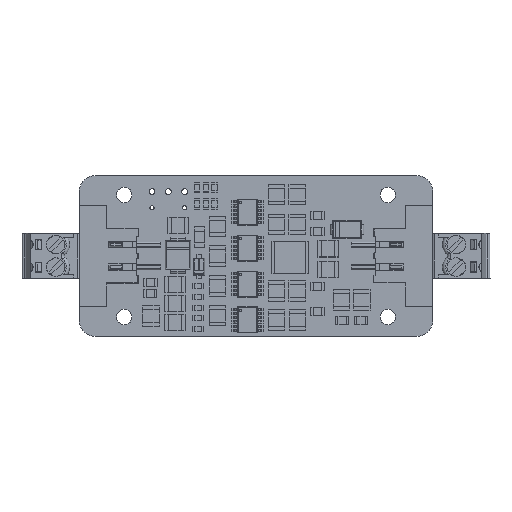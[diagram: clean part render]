
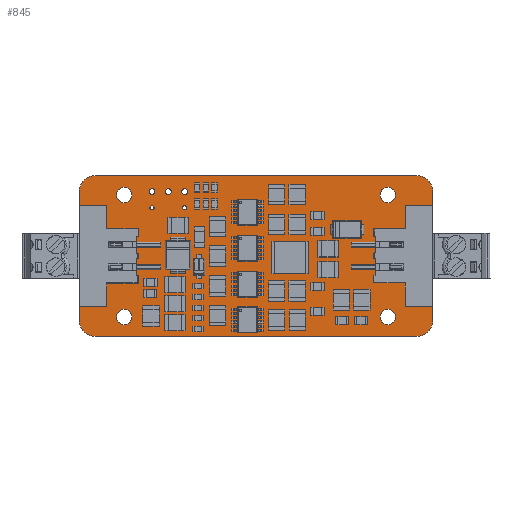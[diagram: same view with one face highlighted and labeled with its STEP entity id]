
A CAD part, top view. The second image highlights one B-rep face of the part: STEP entity #845.
In plain terms, the highlighted planar face has unit normal (0, 0, 1).
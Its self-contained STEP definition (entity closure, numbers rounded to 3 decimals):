
#256 = VERTEX_POINT('',#257);
#257 = CARTESIAN_POINT('',(0.,-22.5,1.556));
#263 = EDGE_CURVE('',#256,#264,#266,.T.);
#264 = VERTEX_POINT('',#265);
#265 = CARTESIAN_POINT('',(0.,-2.5,1.556));
#266 = LINE('',#267,#268);
#267 = CARTESIAN_POINT('',(0.,-22.5,1.556));
#268 = VECTOR('',#269,1.);
#269 = DIRECTION('',(0.,1.,0.));
#294 = EDGE_CURVE('',#264,#295,#297,.T.);
#295 = VERTEX_POINT('',#296);
#296 = CARTESIAN_POINT('',(2.5,0.,1.556));
#297 = CIRCLE('',#298,2.499);
#298 = AXIS2_PLACEMENT_3D('',#299,#300,#301);
#299 = CARTESIAN_POINT('',(2.499,-2.499,1.556));
#300 = DIRECTION('',(0.,0.,-1.));
#301 = DIRECTION('',(-1.,0.,0.));
#327 = EDGE_CURVE('',#295,#328,#330,.T.);
#328 = VERTEX_POINT('',#329);
#329 = CARTESIAN_POINT('',(52.5,0.,1.556));
#330 = LINE('',#331,#332);
#331 = CARTESIAN_POINT('',(2.5,0.,1.556));
#332 = VECTOR('',#333,1.);
#333 = DIRECTION('',(1.,0.,0.));
#358 = EDGE_CURVE('',#328,#359,#361,.T.);
#359 = VERTEX_POINT('',#360);
#360 = CARTESIAN_POINT('',(55.,-2.5,1.556));
#361 = CIRCLE('',#362,2.499);
#362 = AXIS2_PLACEMENT_3D('',#363,#364,#365);
#363 = CARTESIAN_POINT('',(52.501,-2.499,1.556));
#364 = DIRECTION('',(0.,0.,-1.));
#365 = DIRECTION('',(0.,1.,0.));
#391 = EDGE_CURVE('',#359,#392,#394,.T.);
#392 = VERTEX_POINT('',#393);
#393 = CARTESIAN_POINT('',(55.,-22.5,1.556));
#394 = LINE('',#395,#396);
#395 = CARTESIAN_POINT('',(55.,-2.5,1.556));
#396 = VECTOR('',#397,1.);
#397 = DIRECTION('',(0.,-1.,0.));
#422 = EDGE_CURVE('',#392,#423,#425,.T.);
#423 = VERTEX_POINT('',#424);
#424 = CARTESIAN_POINT('',(52.5,-25.,1.556));
#425 = CIRCLE('',#426,2.499);
#426 = AXIS2_PLACEMENT_3D('',#427,#428,#429);
#427 = CARTESIAN_POINT('',(52.501,-22.501,1.556));
#428 = DIRECTION('',(0.,0.,-1.));
#429 = DIRECTION('',(1.,0.,0.));
#455 = EDGE_CURVE('',#423,#456,#458,.T.);
#456 = VERTEX_POINT('',#457);
#457 = CARTESIAN_POINT('',(2.5,-25.,1.556));
#458 = LINE('',#459,#460);
#459 = CARTESIAN_POINT('',(52.5,-25.,1.556));
#460 = VECTOR('',#461,1.);
#461 = DIRECTION('',(-1.,0.,0.));
#486 = EDGE_CURVE('',#456,#256,#487,.T.);
#487 = CIRCLE('',#488,2.499);
#488 = AXIS2_PLACEMENT_3D('',#489,#490,#491);
#489 = CARTESIAN_POINT('',(2.499,-22.501,1.556));
#490 = DIRECTION('',(0.,0.,-1.));
#491 = DIRECTION('',(0.,-1.,0.));
#512 = VERTEX_POINT('',#513);
#513 = CARTESIAN_POINT('',(8.2,-22.,1.556));
#519 = EDGE_CURVE('',#512,#512,#520,.T.);
#520 = CIRCLE('',#521,1.2);
#521 = AXIS2_PLACEMENT_3D('',#522,#523,#524);
#522 = CARTESIAN_POINT('',(7.,-22.,1.556));
#523 = DIRECTION('',(0.,0.,1.));
#524 = DIRECTION('',(1.,0.,0.));
#545 = VERTEX_POINT('',#546);
#546 = CARTESIAN_POINT('',(11.65,-5.017,1.556));
#552 = EDGE_CURVE('',#545,#545,#553,.T.);
#553 = CIRCLE('',#554,0.325);
#554 = AXIS2_PLACEMENT_3D('',#555,#556,#557);
#555 = CARTESIAN_POINT('',(11.325,-5.017,1.556));
#556 = DIRECTION('',(0.,0.,1.));
#557 = DIRECTION('',(1.,0.,0.));
#578 = VERTEX_POINT('',#579);
#579 = CARTESIAN_POINT('',(8.2,-3.,1.556));
#585 = EDGE_CURVE('',#578,#578,#586,.T.);
#586 = CIRCLE('',#587,1.2);
#587 = AXIS2_PLACEMENT_3D('',#588,#589,#590);
#588 = CARTESIAN_POINT('',(7.,-3.,1.556));
#589 = DIRECTION('',(0.,0.,1.));
#590 = DIRECTION('',(1.,0.,0.));
#611 = VERTEX_POINT('',#612);
#612 = CARTESIAN_POINT('',(11.775,-2.477,1.556));
#618 = EDGE_CURVE('',#611,#611,#619,.T.);
#619 = CIRCLE('',#620,0.45);
#620 = AXIS2_PLACEMENT_3D('',#621,#622,#623);
#621 = CARTESIAN_POINT('',(11.325,-2.477,1.556));
#622 = DIRECTION('',(0.,0.,1.));
#623 = DIRECTION('',(1.,0.,0.));
#644 = VERTEX_POINT('',#645);
#645 = CARTESIAN_POINT('',(16.73,-5.017,1.556));
#651 = EDGE_CURVE('',#644,#644,#652,.T.);
#652 = CIRCLE('',#653,0.325);
#653 = AXIS2_PLACEMENT_3D('',#654,#655,#656);
#654 = CARTESIAN_POINT('',(16.405,-5.017,1.556));
#655 = DIRECTION('',(0.,0.,1.));
#656 = DIRECTION('',(1.,0.,0.));
#677 = VERTEX_POINT('',#678);
#678 = CARTESIAN_POINT('',(49.2,-22.,1.556));
#684 = EDGE_CURVE('',#677,#677,#685,.T.);
#685 = CIRCLE('',#686,1.2);
#686 = AXIS2_PLACEMENT_3D('',#687,#688,#689);
#687 = CARTESIAN_POINT('',(48.,-22.,1.556));
#688 = DIRECTION('',(0.,0.,1.));
#689 = DIRECTION('',(1.,0.,0.));
#710 = VERTEX_POINT('',#711);
#711 = CARTESIAN_POINT('',(14.315,-2.477,1.556));
#717 = EDGE_CURVE('',#710,#710,#718,.T.);
#718 = CIRCLE('',#719,0.45);
#719 = AXIS2_PLACEMENT_3D('',#720,#721,#722);
#720 = CARTESIAN_POINT('',(13.865,-2.477,1.556));
#721 = DIRECTION('',(0.,0.,1.));
#722 = DIRECTION('',(1.,0.,0.));
#743 = VERTEX_POINT('',#744);
#744 = CARTESIAN_POINT('',(16.855,-2.477,1.556));
#750 = EDGE_CURVE('',#743,#743,#751,.T.);
#751 = CIRCLE('',#752,0.45);
#752 = AXIS2_PLACEMENT_3D('',#753,#754,#755);
#753 = CARTESIAN_POINT('',(16.405,-2.477,1.556));
#754 = DIRECTION('',(0.,0.,1.));
#755 = DIRECTION('',(1.,0.,0.));
#776 = VERTEX_POINT('',#777);
#777 = CARTESIAN_POINT('',(49.2,-3.,1.556));
#783 = EDGE_CURVE('',#776,#776,#784,.T.);
#784 = CIRCLE('',#785,1.2);
#785 = AXIS2_PLACEMENT_3D('',#786,#787,#788);
#786 = CARTESIAN_POINT('',(48.,-3.,1.556));
#787 = DIRECTION('',(0.,0.,1.));
#788 = DIRECTION('',(1.,0.,0.));
#845 = ADVANCED_FACE('',(#846,#856,#859,#862,#865,#868,#871,#874,#877,
    #880),#883,.T.);
#846 = FACE_BOUND('',#847,.F.);
#847 = EDGE_LOOP('',(#848,#849,#850,#851,#852,#853,#854,#855));
#848 = ORIENTED_EDGE('',*,*,#263,.T.);
#849 = ORIENTED_EDGE('',*,*,#294,.T.);
#850 = ORIENTED_EDGE('',*,*,#327,.T.);
#851 = ORIENTED_EDGE('',*,*,#358,.T.);
#852 = ORIENTED_EDGE('',*,*,#391,.T.);
#853 = ORIENTED_EDGE('',*,*,#422,.T.);
#854 = ORIENTED_EDGE('',*,*,#455,.T.);
#855 = ORIENTED_EDGE('',*,*,#486,.T.);
#856 = FACE_BOUND('',#857,.T.);
#857 = EDGE_LOOP('',(#858));
#858 = ORIENTED_EDGE('',*,*,#519,.F.);
#859 = FACE_BOUND('',#860,.T.);
#860 = EDGE_LOOP('',(#861));
#861 = ORIENTED_EDGE('',*,*,#552,.F.);
#862 = FACE_BOUND('',#863,.T.);
#863 = EDGE_LOOP('',(#864));
#864 = ORIENTED_EDGE('',*,*,#585,.F.);
#865 = FACE_BOUND('',#866,.T.);
#866 = EDGE_LOOP('',(#867));
#867 = ORIENTED_EDGE('',*,*,#618,.F.);
#868 = FACE_BOUND('',#869,.T.);
#869 = EDGE_LOOP('',(#870));
#870 = ORIENTED_EDGE('',*,*,#651,.F.);
#871 = FACE_BOUND('',#872,.T.);
#872 = EDGE_LOOP('',(#873));
#873 = ORIENTED_EDGE('',*,*,#684,.F.);
#874 = FACE_BOUND('',#875,.T.);
#875 = EDGE_LOOP('',(#876));
#876 = ORIENTED_EDGE('',*,*,#717,.F.);
#877 = FACE_BOUND('',#878,.T.);
#878 = EDGE_LOOP('',(#879));
#879 = ORIENTED_EDGE('',*,*,#750,.F.);
#880 = FACE_BOUND('',#881,.T.);
#881 = EDGE_LOOP('',(#882));
#882 = ORIENTED_EDGE('',*,*,#783,.F.);
#883 = PLANE('',#884);
#884 = AXIS2_PLACEMENT_3D('',#885,#886,#887);
#885 = CARTESIAN_POINT('',(0.,-22.5,1.556));
#886 = DIRECTION('',(0.,0.,1.));
#887 = DIRECTION('',(1.,0.,0.));
